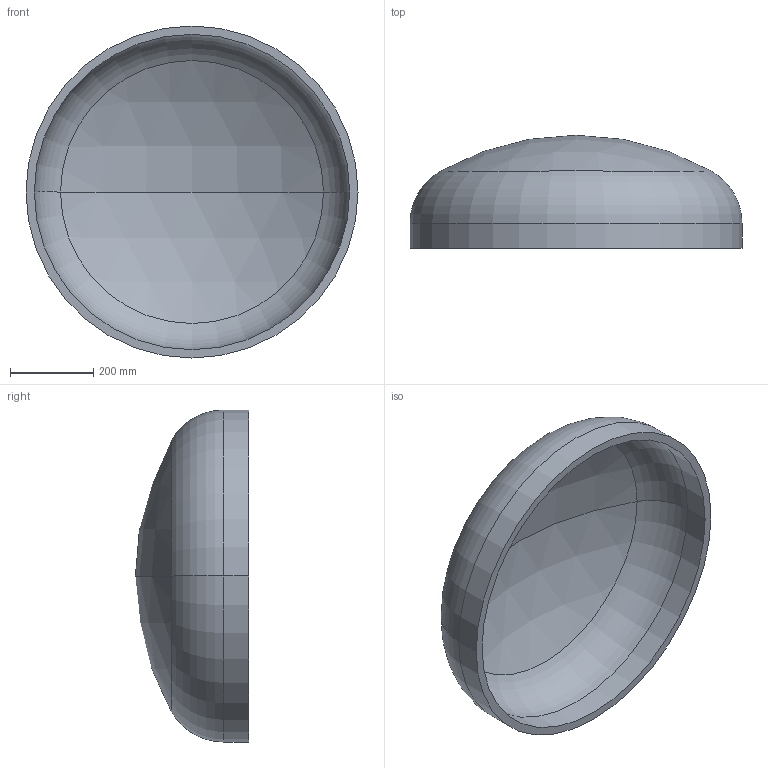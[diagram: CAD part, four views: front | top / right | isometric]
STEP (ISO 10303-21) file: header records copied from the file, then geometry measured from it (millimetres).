
FILE_DESCRIPTION (( 'STEP AP203' ), '1' );
FILE_NAME ('DIN 28013 Korbbogenform_-_Boden DIN 28013 - 800 x 60 - I - s=20.step', '2016-07-01T08:13:46', ( '' ), ( '' ), 'SwSTEP 2.0', 'SolidWorks 2013', '' );
FILE_SCHEMA (( 'CONFIG_CONTROL_DESIGN' ));
Length unit declared in the file: millimetre
Products named in the file (1): DIN 28013 Korbbogenform_-_Boden DIN 28013 - 800 x 60 - I - s=20
Bounding box: 800 x 272.56 x 800 mm (x, y, z)
Volume: 16454098.2 mm3; surface area: 1695255.9 mm2
Topology: 1 solids, 1 shells, 13 faces, 24 edges, 14 vertices
Faces by surface type: torus 4, cylinder 4, sphere 4, plane 1
Entity records: 407 total; most frequent: DIRECTION 72, CARTESIAN_POINT 52, ORIENTED_EDGE 48, AXIS2_PLACEMENT_3D 34, EDGE_CURVE 24, CIRCLE 20, EDGE_LOOP 14, VERTEX_POINT 14
